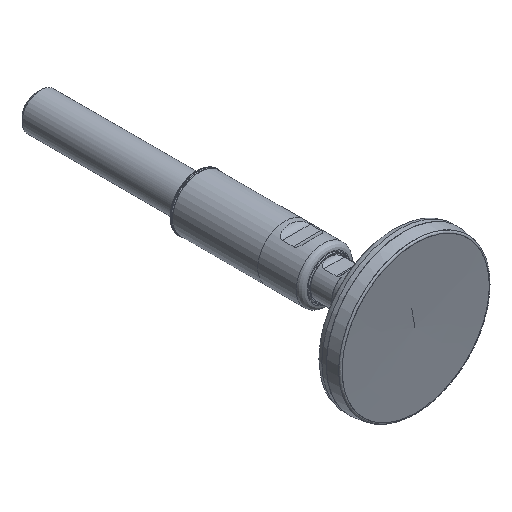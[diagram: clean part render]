
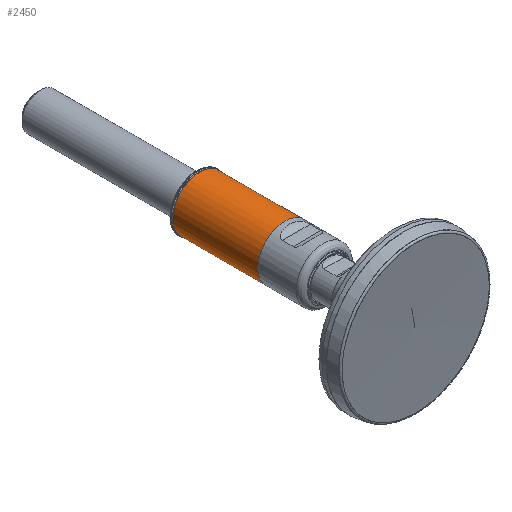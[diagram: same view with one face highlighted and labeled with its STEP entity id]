
A CAD part, isometric view. The second image highlights one B-rep face of the part: STEP entity #2450.
In plain terms, the highlighted cylindrical face has radius 17.5 mm (diameter 35 mm), a full revolution.
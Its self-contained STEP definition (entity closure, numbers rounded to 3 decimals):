
#2385=CARTESIAN_POINT('',(1302.269,1147.298,-17.5));
#2386=VERTEX_POINT('',#2385);
#2394=CARTESIAN_POINT('',(1302.269,1147.298,17.5));
#2395=VERTEX_POINT('',#2394);
#2396=CARTESIAN_POINT('',(1302.269,1147.298,0.));
#2397=DIRECTION('',(0.,1.0,0.));
#2398=DIRECTION('',(0.,0.,-1.0));
#2399=AXIS2_PLACEMENT_3D('',#2396,#2397,#2398);
#2400=CIRCLE('',#2399,17.5);
#2401=EDGE_CURVE('',#2386,#2395,#2400,.T.);
#2403=CARTESIAN_POINT('',(1302.269,1147.298,0.));
#2404=DIRECTION('',(0.,1.0,0.));
#2405=DIRECTION('',(0.,0.,-1.0));
#2406=AXIS2_PLACEMENT_3D('',#2403,#2404,#2405);
#2407=CIRCLE('',#2406,17.5);
#2408=EDGE_CURVE('',#2395,#2386,#2407,.T.);
#2416=CARTESIAN_POINT('',(1302.269,1147.298,0.));
#2417=DIRECTION('',(0.,1.0,0.));
#2418=DIRECTION('',(0.,0.,-1.0));
#2419=AXIS2_PLACEMENT_3D('',#2416,#2417,#2418);
#2420=CYLINDRICAL_SURFACE('',#2419,17.5);
#2421=CARTESIAN_POINT('',(1302.269,1091.998,-17.5));
#2422=VERTEX_POINT('',#2421);
#2423=CARTESIAN_POINT('',(1302.269,1147.298,-17.5));
#2424=DIRECTION('',(0.0,-1.0,0.0));
#2425=VECTOR('',#2424,55.3);
#2426=LINE('',#2423,#2425);
#2427=EDGE_CURVE('',#2386,#2422,#2426,.T.);
#2428=ORIENTED_EDGE('',*,*,#2427,.T.);
#2429=CARTESIAN_POINT('',(1302.269,1091.998,17.5));
#2430=VERTEX_POINT('',#2429);
#2431=CARTESIAN_POINT('',(1302.269,1091.998,0.));
#2432=DIRECTION('',(0.,1.0,0.));
#2433=DIRECTION('',(0.,0.,-1.0));
#2434=AXIS2_PLACEMENT_3D('',#2431,#2432,#2433);
#2435=CIRCLE('',#2434,17.5);
#2436=EDGE_CURVE('',#2422,#2430,#2435,.T.);
#2437=ORIENTED_EDGE('',*,*,#2436,.T.);
#2438=CARTESIAN_POINT('',(1302.269,1091.998,0.));
#2439=DIRECTION('',(0.,1.0,0.));
#2440=DIRECTION('',(0.,0.,-1.0));
#2441=AXIS2_PLACEMENT_3D('',#2438,#2439,#2440);
#2442=CIRCLE('',#2441,17.5);
#2443=EDGE_CURVE('',#2430,#2422,#2442,.T.);
#2444=ORIENTED_EDGE('',*,*,#2443,.T.);
#2445=ORIENTED_EDGE('',*,*,#2427,.F.);
#2446=ORIENTED_EDGE('',*,*,#2408,.F.);
#2447=ORIENTED_EDGE('',*,*,#2401,.F.);
#2448=EDGE_LOOP('',(#2428,#2437,#2444,#2445,#2446,#2447));
#2449=FACE_OUTER_BOUND('',#2448,.T.);
#2450=ADVANCED_FACE('',(#2449),#2420,.T.);
